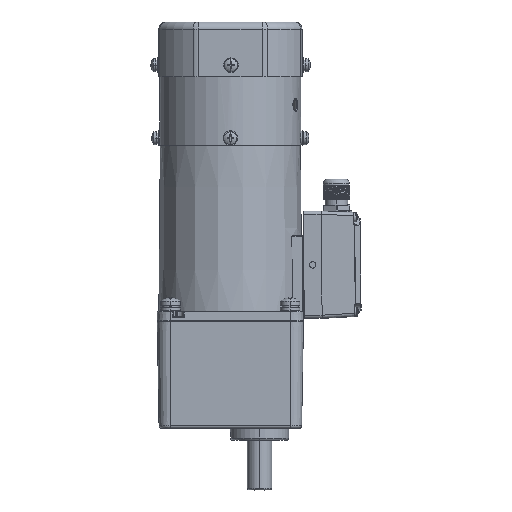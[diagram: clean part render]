
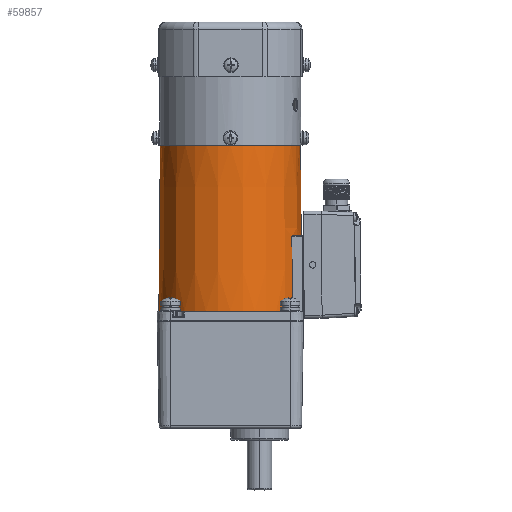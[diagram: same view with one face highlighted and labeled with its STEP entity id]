
A CAD part, front view. The second image highlights one B-rep face of the part: STEP entity #59857.
In plain terms, the highlighted conical face has half-angle 0.5 degrees and reference radius 43.555 mm.
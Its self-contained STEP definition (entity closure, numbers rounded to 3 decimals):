
#1717 = CARTESIAN_POINT ( 'NONE',  ( 43.594, 0., 53.5 ) ) ;
#1718 = DIRECTION ( 'NONE',  ( 0., 0., 1. ) ) ;
#3382 = VECTOR ( 'NONE', #10615, 1000. ) ;
#3483 = CARTESIAN_POINT ( 'NONE',  ( 37.948, -21.457, 53.466 ) ) ;
#3665 = DIRECTION ( 'NONE',  ( -1., 0., 0. ) ) ;
#5699 = ORIENTED_EDGE ( 'NONE', *, *, #22531, .T. ) ;
#7343 = CARTESIAN_POINT ( 'NONE',  ( 37.872, -21.597, 53.203 ) ) ;
#8073 = CARTESIAN_POINT ( 'NONE',  ( 37.872, -21.597, 53.203 ) ) ;
#8218 = EDGE_CURVE ( 'NONE', #54331, #56081, #41663, .T. ) ;
#8771 = DIRECTION ( 'NONE',  ( 0., 0., -1. ) ) ;
#9893 = CARTESIAN_POINT ( 'NONE',  ( 0., 0., 53.5 ) ) ;
#10234 = VERTEX_POINT ( 'NONE', #1717 ) ;
#10615 = DIRECTION ( 'NONE',  ( -0.009, 0., -1. ) ) ;
#11505 = CIRCLE ( 'NONE', #45902, 43.594 ) ;
#11699 = CIRCLE ( 'NONE', #46075, 43.11 ) ;
#12645 = VERTEX_POINT ( 'NONE', #15634 ) ;
#14313 = CARTESIAN_POINT ( 'NONE',  ( 43.11, 0., 109. ) ) ;
#15634 = CARTESIAN_POINT ( 'NONE',  ( -43.11, 0., 109. ) ) ;
#16467 = VECTOR ( 'NONE', #59357, 1000. ) ;
#17339 = CARTESIAN_POINT ( 'NONE',  ( 38.038, -21.297, 53.5 ) ) ;
#17872 = CARTESIAN_POINT ( 'NONE',  ( 38.028, -21.866, 22.401 ) ) ;
#20451 = DIRECTION ( 'NONE',  ( -1., 0., 0. ) ) ;
#20616 = CARTESIAN_POINT ( 'NONE',  ( 38.105, -22., 7. ) ) ;
#21855 = LINE ( 'NONE', #40629, #16467 ) ;
#22211 = CARTESIAN_POINT ( 'NONE',  ( 37.992, -21.38, 53.5 ) ) ;
#22531 = EDGE_CURVE ( 'NONE', #22818, #54331, #49196, .T. ) ;
#22696 = AXIS2_PLACEMENT_3D ( 'NONE', #27044, #45782, #3665 ) ;
#22818 = VERTEX_POINT ( 'NONE', #49304 ) ;
#23385 = ORIENTED_EDGE ( 'NONE', *, *, #46264, .T. ) ;
#24135 = VERTEX_POINT ( 'NONE', #14313 ) ;
#26247 = CONICAL_SURFACE ( 'NONE', #60551, 43.555, 0.009 ) ;
#26854 = CARTESIAN_POINT ( 'NONE',  ( 37.871, -21.596, 53.279 ) ) ;
#27044 = CARTESIAN_POINT ( 'NONE',  ( 0., 0., 7. ) ) ;
#27538 = DIRECTION ( 'NONE',  ( 1., 0., 0. ) ) ;
#28658 = DIRECTION ( 'NONE',  ( 0., 0., 1. ) ) ;
#29484 = ORIENTED_EDGE ( 'NONE', *, *, #45149, .T. ) ;
#32155 = FACE_OUTER_BOUND ( 'NONE', #37713, .T. ) ;
#34015 = LINE ( 'NONE', #52733, #3382 ) ;
#36682 = CARTESIAN_POINT ( 'NONE',  ( 37.95, -21.731, 37.802 ) ) ;
#37485 = EDGE_CURVE ( 'NONE', #12645, #24135, #11699, .T. ) ;
#37713 = EDGE_LOOP ( 'NONE', ( #42955, #46764, #48698, #5699, #45472, #29484, #23385 ) ) ;
#40629 = CARTESIAN_POINT ( 'NONE',  ( 43.11, 0., 109. ) ) ;
#40991 = CARTESIAN_POINT ( 'NONE',  ( 38.038, -21.297, 53.5 ) ) ;
#41597 = VERTEX_POINT ( 'NONE', #17339 ) ;
#41663 = B_SPLINE_CURVE_WITH_KNOTS ( 'NONE', 3,
 ( #59985, #17872, #36682, #55400 ),
 .UNSPECIFIED., .F., .F.,
 ( 4, 4 ),
 ( 0., 1. ),
 .UNSPECIFIED. ) ;
#42955 = ORIENTED_EDGE ( 'NONE', *, *, #60635, .F. ) ;
#43854 = CARTESIAN_POINT ( 'NONE',  ( 0., 0., 109. ) ) ;
#45149 = EDGE_CURVE ( 'NONE', #56081, #41597, #52088, .T. ) ;
#45472 = ORIENTED_EDGE ( 'NONE', *, *, #8218, .T. ) ;
#45592 = CARTESIAN_POINT ( 'NONE',  ( 37.886, -21.569, 53.35 ) ) ;
#45782 = DIRECTION ( 'NONE',  ( 0., 0., 1. ) ) ;
#45902 = AXIS2_PLACEMENT_3D ( 'NONE', #9893, #28658, #47406 ) ;
#46075 = AXIS2_PLACEMENT_3D ( 'NONE', #43854, #1718, #20451 ) ;
#46264 = EDGE_CURVE ( 'NONE', #41597, #10234, #11505, .T. ) ;
#46764 = ORIENTED_EDGE ( 'NONE', *, *, #37485, .F. ) ;
#47406 = DIRECTION ( 'NONE',  ( 0.873, -0.489, 0. ) ) ;
#48698 = ORIENTED_EDGE ( 'NONE', *, *, #52694, .T. ) ;
#49196 = CIRCLE ( 'NONE', #22696, 44. ) ;
#49304 = CARTESIAN_POINT ( 'NONE',  ( -44., 0., 7. ) ) ;
#50878 = CARTESIAN_POINT ( 'NONE',  ( 0., 0., 58. ) ) ;
#52088 = B_SPLINE_CURVE_WITH_KNOTS ( 'NONE', 3,
 ( #8073, #26854, #45592, #3483, #22211, #40991 ),
 .UNSPECIFIED., .F., .F.,
 ( 4, 2, 4 ),
 ( 0., 0.5, 1. ),
 .UNSPECIFIED. ) ;
#52694 = EDGE_CURVE ( 'NONE', #12645, #22818, #34015, .T. ) ;
#52733 = CARTESIAN_POINT ( 'NONE',  ( -43.11, 0., 109. ) ) ;
#54331 = VERTEX_POINT ( 'NONE', #20616 ) ;
#55400 = CARTESIAN_POINT ( 'NONE',  ( 37.872, -21.597, 53.203 ) ) ;
#56081 = VERTEX_POINT ( 'NONE', #7343 ) ;
#59357 = DIRECTION ( 'NONE',  ( 0.009, 0., -1. ) ) ;
#59857 = ADVANCED_FACE ( 'NONE', ( #32155 ), #26247, .T. ) ;
#59985 = CARTESIAN_POINT ( 'NONE',  ( 38.105, -22., 7. ) ) ;
#60551 = AXIS2_PLACEMENT_3D ( 'NONE', #50878, #8771, #27538 ) ;
#60635 = EDGE_CURVE ( 'NONE', #24135, #10234, #21855, .T. ) ;
